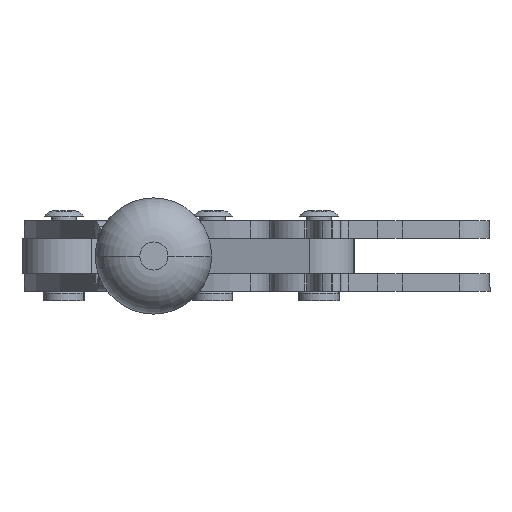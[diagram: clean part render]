
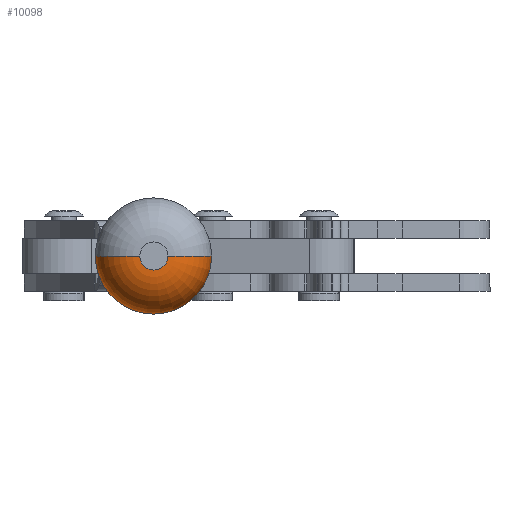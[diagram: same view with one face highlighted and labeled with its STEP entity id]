
A CAD part, left-side view. The second image highlights one B-rep face of the part: STEP entity #10098.
In plain terms, the highlighted toroidal (fillet/blend) face has major radius 3.181 mm and minor radius 10 mm.
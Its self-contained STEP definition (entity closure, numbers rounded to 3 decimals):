
#414 = CARTESIAN_POINT ( 'NONE',  ( -3.181, 0., 0. ) ) ;
#1047 = VERTEX_POINT ( 'NONE', #7430 ) ;
#1350 = CARTESIAN_POINT ( 'NONE',  ( 0., 0., 10. ) ) ;
#1507 = DIRECTION ( 'NONE',  ( 0., 0., 1. ) ) ;
#2108 = DIRECTION ( 'NONE',  ( 1., 0., 0. ) ) ;
#2202 = EDGE_CURVE ( 'NONE', #14963, #8522, #13597, .T. ) ;
#3421 = ORIENTED_EDGE ( 'NONE', *, *, #10426, .F. ) ;
#3951 = FACE_OUTER_BOUND ( 'NONE', #16681, .T. ) ;
#4118 = CIRCLE ( 'NONE', #10800, 10. ) ;
#4285 = VERTEX_POINT ( 'NONE', #414 ) ;
#4400 = AXIS2_PLACEMENT_3D ( 'NONE', #6555, #14659, #11783 ) ;
#5470 = CIRCLE ( 'NONE', #14653, 13.176 ) ;
#6555 = CARTESIAN_POINT ( 'NONE',  ( 3.181, 0., 10. ) ) ;
#6655 = DIRECTION ( 'NONE',  ( 1., 0., 0. ) ) ;
#7430 = CARTESIAN_POINT ( 'NONE',  ( -13.176, 0., 10.314 ) ) ;
#8522 = VERTEX_POINT ( 'NONE', #9375 ) ;
#8929 = DIRECTION ( 'NONE',  ( 0., 0., 1. ) ) ;
#9056 = DIRECTION ( 'NONE',  ( 0., 1., 0. ) ) ;
#9375 = CARTESIAN_POINT ( 'NONE',  ( 13.176, 0., 10.314 ) ) ;
#10098 = ADVANCED_FACE ( 'NONE', ( #3951 ), #14651, .T. ) ;
#10426 = EDGE_CURVE ( 'NONE', #4285, #14963, #13830, .T. ) ;
#10498 = CARTESIAN_POINT ( 'NONE',  ( 3.181, 0., 0. ) ) ;
#10625 = ORIENTED_EDGE ( 'NONE', *, *, #11381, .F. ) ;
#10800 = AXIS2_PLACEMENT_3D ( 'NONE', #15497, #9056, #14284 ) ;
#11381 = EDGE_CURVE ( 'NONE', #8522, #1047, #5470, .T. ) ;
#11688 = DIRECTION ( 'NONE',  ( 0., 0., -1. ) ) ;
#11783 = DIRECTION ( 'NONE',  ( 0., 0., -1. ) ) ;
#12414 = ORIENTED_EDGE ( 'NONE', *, *, #2202, .F. ) ;
#12724 = AXIS2_PLACEMENT_3D ( 'NONE', #14393, #11688, #2108 ) ;
#13597 = CIRCLE ( 'NONE', #4400, 10. ) ;
#13830 = CIRCLE ( 'NONE', #12724, 3.181 ) ;
#14266 = EDGE_CURVE ( 'NONE', #4285, #1047, #4118, .T. ) ;
#14284 = DIRECTION ( 'NONE',  ( -1., 0., 0. ) ) ;
#14317 = CARTESIAN_POINT ( 'NONE',  ( 0., 0., 10.314 ) ) ;
#14393 = CARTESIAN_POINT ( 'NONE',  ( 0., 0., 0. ) ) ;
#14416 = DIRECTION ( 'NONE',  ( 1., 0., 0. ) ) ;
#14651 = TOROIDAL_SURFACE ( 'NONE', #17138, 3.181, 10. ) ;
#14653 = AXIS2_PLACEMENT_3D ( 'NONE', #14317, #8929, #14416 ) ;
#14659 = DIRECTION ( 'NONE',  ( 0., -1., 0. ) ) ;
#14963 = VERTEX_POINT ( 'NONE', #10498 ) ;
#15418 = ORIENTED_EDGE ( 'NONE', *, *, #14266, .T. ) ;
#15497 = CARTESIAN_POINT ( 'NONE',  ( -3.181, 0., 10. ) ) ;
#16681 = EDGE_LOOP ( 'NONE', ( #3421, #15418, #10625, #12414 ) ) ;
#17138 = AXIS2_PLACEMENT_3D ( 'NONE', #1350, #1507, #6655 ) ;
